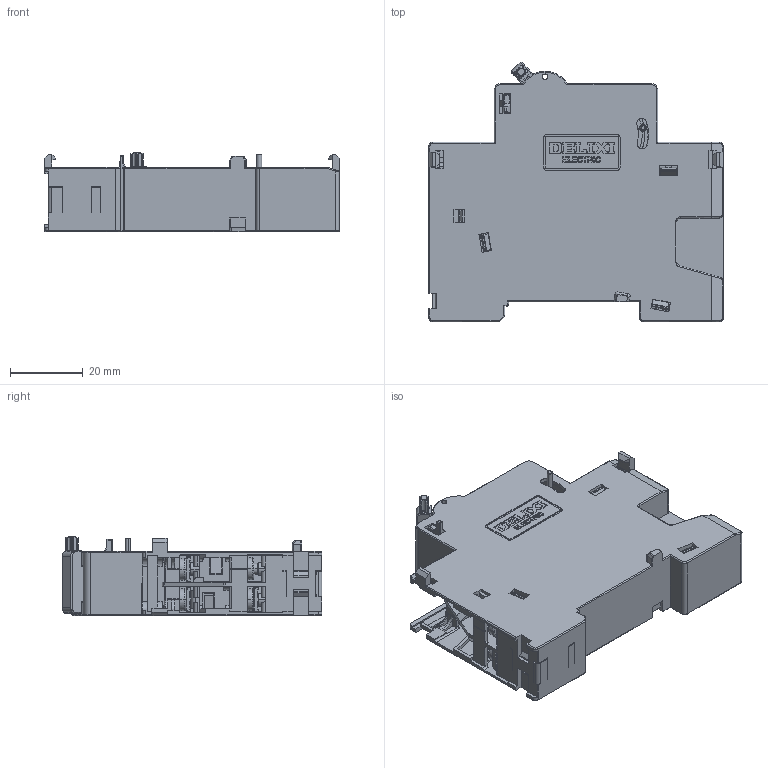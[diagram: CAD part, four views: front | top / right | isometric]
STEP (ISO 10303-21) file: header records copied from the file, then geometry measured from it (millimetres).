
FILE_DESCRIPTION((''),'2;1');
FILE_NAME('2297007600_SW0001','2023-11-09T',('dufeng.zhai'),(''),'PRO/ENGINEER BY PARAMETRIC TECHNOLOGY CORPORATION, 2015440','PRO/ENGINEER BY PARAMETRIC TECHNOLOGY CORPORATION, 2015440','');
FILE_SCHEMA(('CONFIG_CONTROL_DESIGN'));
Products named in the file (1): 2297007600_SW0001
Bounding box: 80.8 x 71.31 x 21.85 mm (x, y, z)
Volume: 58945.7 mm3; surface area: 37428.9 mm2
Topology: 3 solids, 3 shells, 2793 faces, 7904 edges, 5048 vertices
Faces by surface type: plane 1786, cylinder 660, cone 94, torus 88, bspline 75, sphere 47, extrusion 43
Entity records: 97448 total; most frequent: CARTESIAN_POINT 25443, ORIENTED_EDGE 15804, DIRECTION 14062, EDGE_CURVE 7902, VECTOR 5832, LINE 5789, VERTEX_POINT 5048, AXIS2_PLACEMENT_3D 4115
